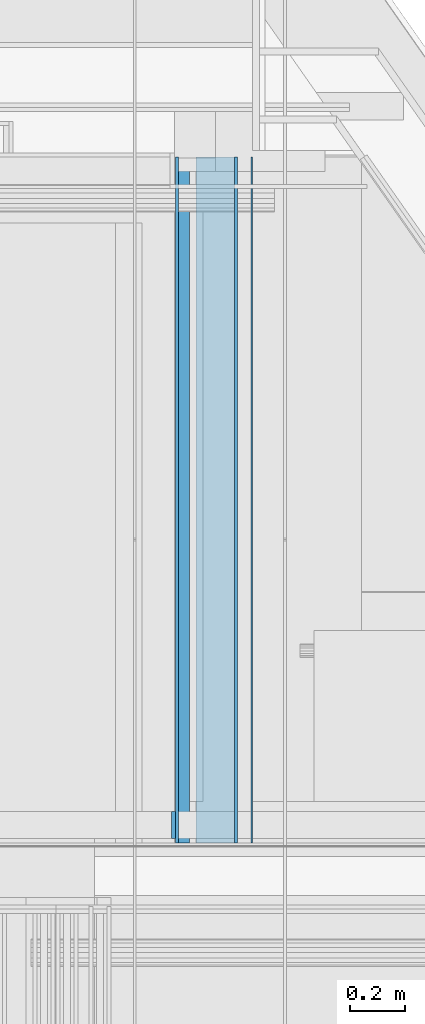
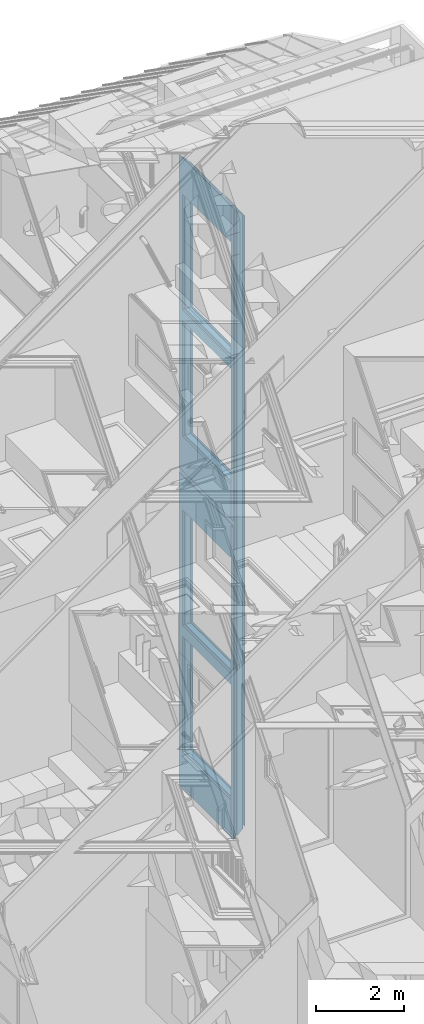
# One storey, part 168 of 583: 8 building element parts, 8 openings, 1 element without a shape of its own.
"""IFC2X3 building model written with IfcOpenShell, lengths in metres."""

from ifc_helpers import new_model, entity, si_unit, converted_unit, derived_unit, money_unit, direction, frame, frame_2d, origin_with_axes, place, context, subcontext, project, spatial, polyline, rectangle, outline, extrude, material, type_object, element, aggregate, save


model = new_model("IFC2X3")

# Units and contexts
model_context = context("Model", 3, precision=1e-05, world=origin_with_axes(), true_north=direction((0.0, 1.0)))
body_context = subcontext(model_context, "Body", "Model", "MODEL_VIEW", scale=1.0)
ifc_project = project(units=[si_unit("LENGTHUNIT", "METRE"), si_unit("AREAUNIT", "SQUARE_METRE"), si_unit("VOLUMEUNIT", "CUBIC_METRE"), si_unit("ABSORBEDDOSEUNIT", "GRAY"), si_unit("AMOUNTOFSUBSTANCEUNIT", "MOLE"), si_unit("DOSEEQUIVALENTUNIT", "SIEVERT"), si_unit("ELECTRICCAPACITANCEUNIT", "FARAD"), si_unit("ELECTRICCHARGEUNIT", "COULOMB"), si_unit("ELECTRICCONDUCTANCEUNIT", "SIEMENS"), si_unit("ELECTRICCURRENTUNIT", "AMPERE"), si_unit("ELECTRICRESISTANCEUNIT", "OHM"), si_unit("ELECTRICVOLTAGEUNIT", "VOLT"), si_unit("ENERGYUNIT", "JOULE"), si_unit("FORCEUNIT", "NEWTON"), si_unit("FREQUENCYUNIT", "HERTZ"), si_unit("ILLUMINANCEUNIT", "LUX"), si_unit("INDUCTANCEUNIT", "HENRY"), si_unit("LUMINOUSFLUXUNIT", "LUMEN"), si_unit("LUMINOUSINTENSITYUNIT", "CANDELA"), si_unit("MAGNETICFLUXDENSITYUNIT", "TESLA"), si_unit("MAGNETICFLUXUNIT", "WEBER"), si_unit("MASSUNIT", "GRAM"), converted_unit("PLANEANGLEUNIT", "degree", entity("IfcReal", 0.0174532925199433), si_unit("PLANEANGLEUNIT", "RADIAN"), dimensions=[0, 0, 0, 0, 0, 0, 0]), si_unit("POWERUNIT", "WATT"), si_unit("PRESSUREUNIT", "PASCAL"), si_unit("RADIOACTIVITYUNIT", "BECQUEREL"), si_unit("SOLIDANGLEUNIT", "STERADIAN"), si_unit("THERMODYNAMICTEMPERATUREUNIT", "KELVIN"), si_unit("TIMEUNIT", "SECOND"), derived_unit("ACCELERATIONUNIT", [(si_unit("LENGTHUNIT", "METRE"), 1), (si_unit("TIMEUNIT", "SECOND"), -2)]), derived_unit("ANGULARVELOCITYUNIT", [(converted_unit("PLANEANGLEUNIT", "degree", entity("IfcReal", 0.0174532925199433), si_unit("PLANEANGLEUNIT", "RADIAN"), dimensions=[0, 0, 0, 0, 0, 0, 0]), 1), (si_unit("TIMEUNIT", "SECOND"), -1)]), derived_unit("CURVATUREUNIT", [(converted_unit("PLANEANGLEUNIT", "degree", entity("IfcReal", 0.0174532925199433), si_unit("PLANEANGLEUNIT", "RADIAN"), dimensions=[0, 0, 0, 0, 0, 0, 0]), 1), (si_unit("LENGTHUNIT", "METRE"), -1)]), derived_unit("DYNAMICVISCOSITYUNIT", [(si_unit("PRESSUREUNIT", "PASCAL"), 1), (si_unit("TIMEUNIT", "SECOND"), 1)]), derived_unit("HEATFLUXDENSITYUNIT", [(si_unit("POWERUNIT", "WATT"), 1), (si_unit("LENGTHUNIT", "METRE"), -2)]), derived_unit("HEATINGVALUEUNIT", [(si_unit("ENERGYUNIT", "JOULE"), 1), (si_unit("MASSUNIT", "GRAM"), -1)]), derived_unit("INTEGERCOUNTRATEUNIT", [(si_unit("TIMEUNIT", "SECOND"), -1)]), derived_unit("IONCONCENTRATIONUNIT", [(si_unit("MASSUNIT", "GRAM"), 1), (si_unit("VOLUMEUNIT", "CUBIC_METRE"), -1)]), derived_unit("ISOTHERMALMOISTURECAPACITYUNIT", [(si_unit("VOLUMEUNIT", "CUBIC_METRE"), 1), (si_unit("MASSUNIT", "GRAM"), -1)]), derived_unit("KINEMATICVISCOSITYUNIT", [(si_unit("AREAUNIT", "SQUARE_METRE"), 1), (si_unit("TIMEUNIT", "SECOND"), -1)]), derived_unit("LINEARFORCEUNIT", [(si_unit("FORCEUNIT", "NEWTON"), 1), (si_unit("LENGTHUNIT", "METRE"), -1)]), derived_unit("LINEARMOMENTUNIT", [(si_unit("FORCEUNIT", "NEWTON"), 1), (si_unit("LENGTHUNIT", "METRE"), -1)]), derived_unit("LINEARSTIFFNESSUNIT", [(si_unit("FORCEUNIT", "NEWTON"), 1), (si_unit("LENGTHUNIT", "METRE"), -1)]), derived_unit("LINEARVELOCITYUNIT", [(si_unit("LENGTHUNIT", "METRE"), 1), (si_unit("TIMEUNIT", "SECOND"), -1)]), derived_unit("LUMINOUSINTENSITYDISTRIBUTIONUNIT", [(si_unit("LUMINOUSINTENSITYUNIT", "CANDELA"), 1), (si_unit("LUMINOUSFLUXUNIT", "LUMEN"), -1)]), derived_unit("MASSDENSITYUNIT", [(si_unit("MASSUNIT", "GRAM"), 1), (si_unit("VOLUMEUNIT", "CUBIC_METRE"), -1)]), derived_unit("MASSFLOWRATEUNIT", [(si_unit("MASSUNIT", "GRAM"), 1), (si_unit("TIMEUNIT", "SECOND"), -1)]), derived_unit("MASSPERLENGTHUNIT", [(si_unit("MASSUNIT", "GRAM"), 1), (si_unit("LENGTHUNIT", "METRE"), -1)]), derived_unit("MODULUSOFELASTICITYUNIT", [(si_unit("FORCEUNIT", "NEWTON"), 1), (si_unit("AREAUNIT", "SQUARE_METRE"), -1)]), derived_unit("MODULUSOFLINEARSUBGRADEREACTIONUNIT", [(si_unit("FORCEUNIT", "NEWTON"), 1), (si_unit("LENGTHUNIT", "METRE"), -2)]), derived_unit("MODULUSOFROTATIONALSUBGRADEREACTIONUNIT", [(si_unit("FORCEUNIT", "NEWTON"), 1), (si_unit("LENGTHUNIT", "METRE"), 1)]), derived_unit("MODULUSOFSUBGRADEREACTIONUNIT", [(si_unit("FORCEUNIT", "NEWTON"), 1), (si_unit("VOLUMEUNIT", "CUBIC_METRE"), -1)]), derived_unit("MOISTUREDIFFUSIVITYUNIT", [(si_unit("VOLUMEUNIT", "CUBIC_METRE"), 1), (si_unit("TIMEUNIT", "SECOND"), -1)]), derived_unit("MOLECULARWEIGHTUNIT", [(si_unit("MASSUNIT", "GRAM"), 1), (si_unit("AMOUNTOFSUBSTANCEUNIT", "MOLE"), -1)]), derived_unit("PLANARFORCEUNIT", [(si_unit("FORCEUNIT", "NEWTON"), 1), (si_unit("LENGTHUNIT", "METRE"), -2)]), derived_unit("ROTATIONALFREQUENCYUNIT", [(si_unit("TIMEUNIT", "SECOND"), -1)]), derived_unit("ROTATIONALMASSUNIT", [(si_unit("MASSUNIT", "GRAM"), 1), (si_unit("LENGTHUNIT", "METRE"), 2)]), derived_unit("ROTATIONALSTIFFNESSUNIT", [(si_unit("FORCEUNIT", "NEWTON"), 1), (si_unit("LENGTHUNIT", "METRE"), 1), (converted_unit("PLANEANGLEUNIT", "degree", entity("IfcReal", 0.0174532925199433), si_unit("PLANEANGLEUNIT", "RADIAN"), dimensions=[0, 0, 0, 0, 0, 0, 0]), -1)]), derived_unit("SECTIONAREAINTEGRALUNIT", [(si_unit("LENGTHUNIT", "METRE"), 5)]), derived_unit("SECTIONMODULUSUNIT", [(si_unit("LENGTHUNIT", "METRE"), 3)]), derived_unit("SHEARMODULUSUNIT", [(si_unit("FORCEUNIT", "NEWTON"), 1), (si_unit("AREAUNIT", "SQUARE_METRE"), -1)]), derived_unit("SOUNDPOWERUNIT", [(si_unit("ENERGYUNIT", "JOULE"), 1), (si_unit("TIMEUNIT", "SECOND"), -1)]), derived_unit("SPECIFICHEATCAPACITYUNIT", [(si_unit("FORCEUNIT", "NEWTON"), 1), (si_unit("MASSUNIT", "GRAM"), -1), (si_unit("THERMODYNAMICTEMPERATUREUNIT", "KELVIN"), -1)]), derived_unit("TEMPERATUREGRADIENTUNIT", [(si_unit("THERMODYNAMICTEMPERATUREUNIT", "KELVIN"), 1), (si_unit("LENGTHUNIT", "METRE"), -1)]), derived_unit("THERMALADMITTANCEUNIT", [(si_unit("POWERUNIT", "WATT"), 1), (si_unit("AREAUNIT", "SQUARE_METRE"), -1), (si_unit("THERMODYNAMICTEMPERATUREUNIT", "KELVIN"), -1)]), derived_unit("THERMALCONDUCTANCEUNIT", [(si_unit("POWERUNIT", "WATT"), 1), (si_unit("LENGTHUNIT", "METRE"), -1), (si_unit("THERMODYNAMICTEMPERATUREUNIT", "KELVIN"), -1)]), derived_unit("THERMALEXPANSIONCOEFFICIENTUNIT", [(si_unit("THERMODYNAMICTEMPERATUREUNIT", "KELVIN"), -1)]), derived_unit("THERMALRESISTANCEUNIT", [(si_unit("AREAUNIT", "SQUARE_METRE"), 1), (si_unit("POWERUNIT", "WATT"), -1)]), derived_unit("THERMALTRANSMITTANCEUNIT", [(si_unit("POWERUNIT", "WATT"), 1), (si_unit("AREAUNIT", "SQUARE_METRE"), -1), (si_unit("THERMODYNAMICTEMPERATUREUNIT", "KELVIN"), -1)]), derived_unit("TORQUEUNIT", [(si_unit("FORCEUNIT", "NEWTON"), 1), (si_unit("LENGTHUNIT", "METRE"), 1)]), derived_unit("VAPORPERMEABILITYUNIT", [(si_unit("MASSUNIT", "GRAM"), 1), (si_unit("TIMEUNIT", "SECOND"), -1)]), derived_unit("VOLUMETRICFLOWRATEUNIT", [(si_unit("VOLUMEUNIT", "CUBIC_METRE"), 1), (si_unit("TIMEUNIT", "SECOND"), -1)]), derived_unit("WARPINGCONSTANTUNIT", [(si_unit("LENGTHUNIT", "METRE"), 6)]), derived_unit("WARPINGMOMENTUNIT", [(si_unit("FORCEUNIT", "NEWTON"), 1), (si_unit("LENGTHUNIT", "METRE"), 2)]), money_unit("GBP")], contexts=[model_context])

# Site, building, storey
site_placement = place(None, origin_with_axes())
site = spatial("IfcSite", under=ifc_project, at=site_placement, Name="Site", CompositionType="ELEMENT")
building_placement = place(site_placement, origin_with_axes())
building = spatial("IfcBuilding", under=site, at=building_placement, Name="Building01", CompositionType="ELEMENT")
storey_placement = place(building_placement, frame((0.0, 0.0, 20.78), z_axis=(0.0, 0.0, 1.0), x_axis=(1.0, 0.0, 0.0)))
storey = spatial("IfcBuildingStorey", under=building, at=storey_placement, Name="RL", CompositionType="ELEMENT", Elevation=20.78)

# Wall, openings, building element parts
wall_type = type_object("IfcWallType", Name="SHE_A-Walls_Type06e_ExternalWallPenthouse_280mm", PredefinedType="NOTDEFINED")
wall_placement = place(storey_placement, frame((11.634939, 17.68, 1.224976), z_axis=(0.0, 1.0, 0.0), x_axis=(0.0, 0.0, -1.0)))
wall = element("IfcWall", 1, at=wall_placement, inside=storey, type_object=wall_type, Name="6E", ObjectType="SHE_A-Walls_Type06e_ExternalWallPenthouse_280mm")
opening_1_placement = place(wall_placement, frame((14.620742, 0.215, 0.15), z_axis=(0.0, 0.0, 1.0), x_axis=(1.0, 0.0, 0.0)))
element("IfcOpeningElement", 2, at=opening_1_placement, cuts=wall, Name="Opening", ObjectType="Opening", context=body_context, shape_type="SweptSolid", body=[
    extrude(rectangle(XDim=2.2, YDim=1.6, at=frame_2d((0.8, 1.1), x_axis=(0.0, -1.0))), frame((0.0, 0.0, 0.0), z_axis=(0.0, -1.0, 0.0), x_axis=(1.0, 0.0, 0.0)), (0.0, 0.0, 1.0), 19.218188),
])
opening_2_placement = place(wall_placement, frame((13.020742, 0.215, 0.15), z_axis=(0.0, 0.0, 1.0), x_axis=(1.0, 0.0, 0.0)))
element("IfcOpeningElement", 3, at=opening_2_placement, cuts=wall, Name="Opening", ObjectType="Opening", context=body_context, shape_type="SweptSolid", body=[
    extrude(rectangle(XDim=2.2, YDim=1.6, at=frame_2d((0.8, 1.1), x_axis=(0.0, -1.0))), frame((0.0, 0.0, 0.0), z_axis=(0.0, -1.0, 0.0), x_axis=(1.0, 0.0, 0.0)), (0.0, 0.0, 1.0), 19.218188),
])
opening_3_placement = place(wall_placement, frame((11.120742, 0.215, 0.15), z_axis=(0.0, 0.0, 1.0), x_axis=(1.0, 0.0, 0.0)))
element("IfcOpeningElement", 4, at=opening_3_placement, cuts=wall, Name="Opening", ObjectType="Opening", context=body_context, shape_type="SweptSolid", body=[
    extrude(rectangle(XDim=2.2, YDim=1.6, at=frame_2d((0.8, 1.1), x_axis=(0.0, -1.0))), frame((0.0, 0.0, 0.0), z_axis=(0.0, -1.0, 0.0), x_axis=(1.0, 0.0, 0.0)), (0.0, 0.0, 1.0), 19.218188),
])
opening_4_placement = place(wall_placement, frame((9.520742, 0.215, 0.15), z_axis=(0.0, 0.0, 1.0), x_axis=(1.0, 0.0, 0.0)))
element("IfcOpeningElement", 5, at=opening_4_placement, cuts=wall, Name="Opening", ObjectType="Opening", context=body_context, shape_type="SweptSolid", body=[
    extrude(rectangle(XDim=2.2, YDim=1.6, at=frame_2d((0.8, 1.1), x_axis=(0.0, -1.0))), frame((0.0, 0.0, 0.0), z_axis=(0.0, -1.0, 0.0), x_axis=(1.0, 0.0, 0.0)), (0.0, 0.0, 1.0), 19.218188),
])
opening_5_placement = place(wall_placement, frame((5.889233, 0.215, 0.15), z_axis=(0.0, 0.0, 1.0), x_axis=(1.0, 0.0, 0.0)))
element("IfcOpeningElement", 6, at=opening_5_placement, cuts=wall, Name="Opening", ObjectType="Opening", context=body_context, shape_type="SweptSolid", body=[
    extrude(rectangle(XDim=2.2, YDim=1.6, at=frame_2d((0.8, 1.1), x_axis=(0.0, -1.0))), frame((0.0, 0.0, 0.0), z_axis=(0.0, -1.0, 0.0), x_axis=(1.0, 0.0, 0.0)), (0.0, 0.0, 1.0), 19.218188),
])
opening_6_placement = place(wall_placement, frame((4.289233, 0.215, 0.15), z_axis=(0.0, 0.0, 1.0), x_axis=(1.0, 0.0, 0.0)))
element("IfcOpeningElement", 7, at=opening_6_placement, cuts=wall, Name="Opening", ObjectType="Opening", context=body_context, shape_type="SweptSolid", body=[
    extrude(rectangle(XDim=2.2, YDim=1.6, at=frame_2d((0.8, 1.1), x_axis=(0.0, -1.0))), frame((0.0, 0.0, 0.0), z_axis=(0.0, -1.0, 0.0), x_axis=(1.0, 0.0, 0.0)), (0.0, 0.0, 1.0), 19.218188),
])
opening_7_placement = place(wall_placement, frame((2.389233, 0.215, 0.15), z_axis=(0.0, 0.0, 1.0), x_axis=(1.0, 0.0, 0.0)))
element("IfcOpeningElement", 8, at=opening_7_placement, cuts=wall, Name="Opening", ObjectType="Opening", context=body_context, shape_type="SweptSolid", body=[
    extrude(rectangle(XDim=2.2, YDim=1.6, at=frame_2d((0.8, 1.1), x_axis=(0.0, -1.0))), frame((0.0, 0.0, 0.0), z_axis=(0.0, -1.0, 0.0), x_axis=(1.0, 0.0, 0.0)), (0.0, 0.0, 1.0), 19.218188),
])
opening_8_placement = place(wall_placement, frame((0.789233, 0.215, 0.15), z_axis=(0.0, 0.0, 1.0), x_axis=(1.0, 0.0, 0.0)))
element("IfcOpeningElement", 9, at=opening_8_placement, cuts=wall, Name="Opening", ObjectType="Opening", context=body_context, shape_type="SweptSolid", body=[
    extrude(rectangle(XDim=2.2, YDim=1.6, at=frame_2d((0.8, 1.1), x_axis=(0.0, -1.0))), frame((0.0, 0.0, 0.0), z_axis=(0.0, -1.0, 0.0), x_axis=(1.0, 0.0, 0.0)), (0.0, 0.0, 1.0), 19.218188),
])
ifc_material_1 = material(Name="A_BSUK_Insulation")
placement = place(wall_placement, origin_with_axes())
building_element_part_1 = element("IfcBuildingElementPart", 10, at=placement, material=ifc_material_1, Name="1", context=body_context, shape_type="SweptSolid", body=[
    extrude(outline(polyline([(17.149951, 0.14), (-0.14, 0.14), (0.0, 0.0), (17.009951, 0.0), (17.149951, 0.14)])), origin_with_axes(), (0.0, 0.0, 1.0), 2.5),
])
building_element_part_2 = element("IfcBuildingElementPart", 11, at=placement, material=ifc_material_1, Name="2", context=body_context, shape_type="SweptSolid", body=[
    extrude(outline(polyline([(17.214951, 0.205), (-0.205, 0.205), (-0.165, 0.165), (17.174951, 0.165), (17.214951, 0.205)])), origin_with_axes(), (0.0, 0.0, 1.0), 2.5),
])
ifc_material_2 = material(Name="A_BSUK_Walls_Timber")
building_element_part_3 = element("IfcBuildingElementPart", 12, at=placement, material=ifc_material_2, Name="3", context=body_context, shape_type="SweptSolid", body=[
    extrude(outline(polyline([(8.404976, 0.23), (-0.23, 0.23), (-0.215, 0.215), (8.404976, 0.215), (8.404976, 0.23)])), frame((0.0, 0.0, 0.015), z_axis=(0.0, 0.0, 1.0), x_axis=(1.0, 0.0, 0.0)), (0.0, 0.0, 1.0), 0.1),
])
building_element_part_4 = element("IfcBuildingElementPart", 13, at=placement, material=ifc_material_2, Name="4", context=body_context, shape_type="SweptSolid", body=[
    extrude(outline(polyline([(17.239951, 0.23), (8.604976, 0.23), (8.604976, 0.215), (17.224951, 0.215), (17.239951, 0.23)])), frame((0.0, 0.0, 0.015), z_axis=(0.0, 0.0, 1.0), x_axis=(1.0, 0.0, 0.0)), (0.0, 0.0, 1.0), 0.1),
])
ifc_material_3 = material(Name="A_BSUK_WallInternal_Finishes_Plasterboard")
building_element_part_5 = element("IfcBuildingElementPart", 14, at=placement, material=ifc_material_3, Name="5", context=body_context, shape_type="SweptSolid", body=[
    extrude(outline(polyline([(8.434976, 0.215), (-0.215, 0.215), (-0.205, 0.205), (8.434976, 0.205), (8.434976, 0.215)])), origin_with_axes(), (0.0, 0.0, 1.0), 2.5),
])
building_element_part_6 = element("IfcBuildingElementPart", 15, at=placement, material=ifc_material_2, Name="6", context=body_context, shape_type="SweptSolid", body=[
    extrude(outline(polyline([(17.009951, 0.0), (0.0, 0.0), (0.01, -0.01), (16.999951, -0.01), (17.009951, 0.0)])), origin_with_axes(), (0.0, 0.0, 1.0), 2.5),
])
building_element_part_7 = element("IfcBuildingElementPart", 16, at=placement, material=ifc_material_3, Name="7", context=body_context, shape_type="SweptSolid", body=[
    extrude(outline(polyline([(17.224951, 0.215), (8.574976, 0.215), (8.574976, 0.205), (17.214951, 0.205), (17.224951, 0.215)])), origin_with_axes(), (0.0, 0.0, 1.0), 2.5),
])
ifc_material_4 = material(Name="A_BSUK_WallInternal_Finishes_Metal")
building_element_part_8 = element("IfcBuildingElementPart", 17, at=placement, material=ifc_material_4, Name="8", context=body_context, shape_type="SweptSolid", body=[
    extrude(outline(polyline([(16.949951, -0.06), (0.06, -0.06), (0.065, -0.065), (16.944951, -0.065), (16.949951, -0.06)])), origin_with_axes(), (0.0, 0.0, 1.0), 2.5),
])
aggregate(wall, [building_element_part_1, building_element_part_2, building_element_part_3, building_element_part_4, building_element_part_5, building_element_part_6, building_element_part_7, building_element_part_8])

save(model, "model.ifc")
